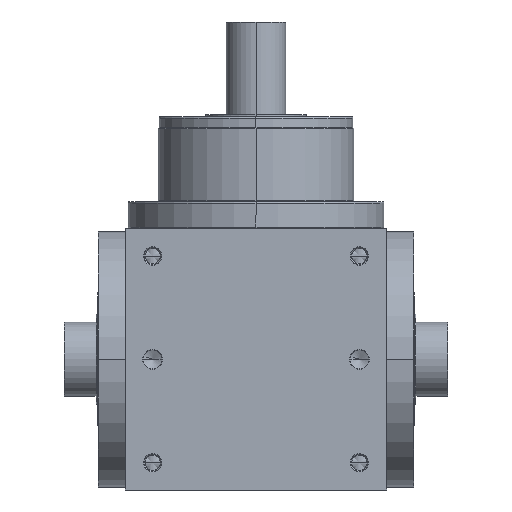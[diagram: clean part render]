
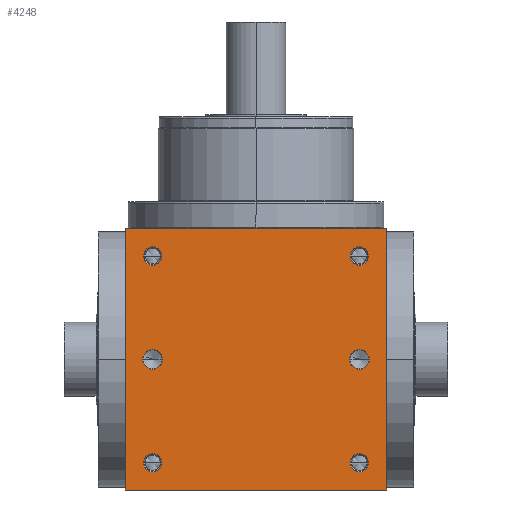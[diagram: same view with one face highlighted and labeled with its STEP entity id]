
A CAD part, front view. The second image highlights one B-rep face of the part: STEP entity #4248.
In plain terms, the highlighted planar face has unit normal (0, -1, 0).
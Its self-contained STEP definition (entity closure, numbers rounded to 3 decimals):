
#5=DIRECTION('',(1.,0.,0.));
#6=VECTOR('',#5,240.);
#7=CARTESIAN_POINT('',(-120.,-120.,-120.));
#8=LINE('',#7,#6);
#155=DIRECTION('',(0.,0.,1.));
#156=VECTOR('',#155,240.);
#157=CARTESIAN_POINT('',(120.,-120.,-120.));
#158=LINE('',#157,#156);
#209=DIRECTION('',(0.,0.,1.));
#210=VECTOR('',#209,240.);
#211=CARTESIAN_POINT('',(-120.,-120.,-120.));
#212=LINE('',#211,#210);
#213=CARTESIAN_POINT('',(95.,-120.,95.));
#214=DIRECTION('',(0.,1.,0.));
#215=DIRECTION('',(-1.,0.,0.));
#216=AXIS2_PLACEMENT_3D('',#213,#214,#215);
#218=CARTESIAN_POINT('',(95.,-120.,95.));
#219=DIRECTION('',(0.,1.,0.));
#220=DIRECTION('',(1.,0.,0.));
#221=AXIS2_PLACEMENT_3D('',#218,#219,#220);
#223=CARTESIAN_POINT('',(-95.,-120.,95.));
#224=DIRECTION('',(0.,1.,0.));
#225=DIRECTION('',(-1.,0.,0.));
#226=AXIS2_PLACEMENT_3D('',#223,#224,#225);
#228=CARTESIAN_POINT('',(-95.,-120.,95.));
#229=DIRECTION('',(0.,1.,0.));
#230=DIRECTION('',(1.,0.,0.));
#231=AXIS2_PLACEMENT_3D('',#228,#229,#230);
#233=CARTESIAN_POINT('',(95.,-120.,-95.));
#234=DIRECTION('',(0.,1.,0.));
#235=DIRECTION('',(-1.,0.,0.));
#236=AXIS2_PLACEMENT_3D('',#233,#234,#235);
#238=CARTESIAN_POINT('',(95.,-120.,-95.));
#239=DIRECTION('',(0.,1.,0.));
#240=DIRECTION('',(1.,0.,0.));
#241=AXIS2_PLACEMENT_3D('',#238,#239,#240);
#243=CARTESIAN_POINT('',(-95.,-120.,-95.));
#244=DIRECTION('',(0.,1.,0.));
#245=DIRECTION('',(-1.,0.,0.));
#246=AXIS2_PLACEMENT_3D('',#243,#244,#245);
#248=CARTESIAN_POINT('',(-95.,-120.,-95.));
#249=DIRECTION('',(0.,1.,0.));
#250=DIRECTION('',(1.,0.,0.));
#251=AXIS2_PLACEMENT_3D('',#248,#249,#250);
#253=CARTESIAN_POINT('',(-95.,-120.,0.));
#254=DIRECTION('',(0.,1.,0.));
#255=DIRECTION('',(1.,0.,0.));
#256=AXIS2_PLACEMENT_3D('',#253,#254,#255);
#258=CARTESIAN_POINT('',(-95.,-120.,0.));
#259=DIRECTION('',(0.,1.,0.));
#260=DIRECTION('',(-1.,0.,0.));
#261=AXIS2_PLACEMENT_3D('',#258,#259,#260);
#263=CARTESIAN_POINT('',(95.,-120.,0.));
#264=DIRECTION('',(0.,1.,0.));
#265=DIRECTION('',(1.,0.,0.));
#266=AXIS2_PLACEMENT_3D('',#263,#264,#265);
#268=CARTESIAN_POINT('',(95.,-120.,0.));
#269=DIRECTION('',(0.,1.,0.));
#270=DIRECTION('',(-1.,0.,0.));
#271=AXIS2_PLACEMENT_3D('',#268,#269,#270);
#285=DIRECTION('',(1.,0.,0.));
#286=VECTOR('',#285,240.);
#287=CARTESIAN_POINT('',(-120.,-120.,120.));
#288=LINE('',#287,#286);
#3422=CARTESIAN_POINT('',(-120.,-120.,-120.));
#3424=VERTEX_POINT('',#3422);
#3425=CARTESIAN_POINT('',(120.,-120.,-120.));
#3426=VERTEX_POINT('',#3425);
#3430=CARTESIAN_POINT('',(-120.,-120.,120.));
#3432=VERTEX_POINT('',#3430);
#3433=CARTESIAN_POINT('',(120.,-120.,120.));
#3434=VERTEX_POINT('',#3433);
#3589=CARTESIAN_POINT('',(86.6,-120.,95.));
#3590=CARTESIAN_POINT('',(103.4,-120.,95.));
#3591=VERTEX_POINT('',#3589);
#3592=VERTEX_POINT('',#3590);
#3597=CARTESIAN_POINT('',(-103.4,-120.,95.));
#3598=CARTESIAN_POINT('',(-86.6,-120.,95.));
#3599=VERTEX_POINT('',#3597);
#3600=VERTEX_POINT('',#3598);
#3605=CARTESIAN_POINT('',(86.6,-120.,-95.));
#3606=CARTESIAN_POINT('',(103.4,-120.,-95.));
#3607=VERTEX_POINT('',#3605);
#3608=VERTEX_POINT('',#3606);
#3613=CARTESIAN_POINT('',(-103.4,-120.,-95.));
#3614=CARTESIAN_POINT('',(-86.6,-120.,-95.));
#3615=VERTEX_POINT('',#3613);
#3616=VERTEX_POINT('',#3614);
#3937=CARTESIAN_POINT('',(-85.95,-120.,
0.));
#3938=CARTESIAN_POINT('',(-104.05,-120.,
0.));
#3939=VERTEX_POINT('',#3937);
#3940=VERTEX_POINT('',#3938);
#3945=CARTESIAN_POINT('',(104.05,-120.,0.));
#3946=CARTESIAN_POINT('',(85.95,-120.,0.));
#3947=VERTEX_POINT('',#3945);
#3948=VERTEX_POINT('',#3946);
#4200=CARTESIAN_POINT('',(-120.,-120.,-120.));
#4201=DIRECTION('',(0.,-1.,0.));
#4202=DIRECTION('',(1.,0.,0.));
#4203=AXIS2_PLACEMENT_3D('',#4200,#4201,#4202);
#4204=PLANE('',#4203);
#4205=ORIENTED_EDGE('',*,*,#4040,.F.);
#4206=ORIENTED_EDGE('',*,*,#4083,.T.);
#4208=ORIENTED_EDGE('',*,*,#4207,.T.);
#4209=ORIENTED_EDGE('',*,*,#4162,.F.);
#4210=EDGE_LOOP('',(#4205,#4206,#4208,#4209));
#4211=FACE_OUTER_BOUND('',#4210,.F.);
#4213=ORIENTED_EDGE('',*,*,#4212,.F.);
#4215=ORIENTED_EDGE('',*,*,#4214,.F.);
#4216=EDGE_LOOP('',(#4213,#4215));
#4217=FACE_BOUND('',#4216,.F.);
#4219=ORIENTED_EDGE('',*,*,#4218,.F.);
#4221=ORIENTED_EDGE('',*,*,#4220,.F.);
#4222=EDGE_LOOP('',(#4219,#4221));
#4223=FACE_BOUND('',#4222,.F.);
#4225=ORIENTED_EDGE('',*,*,#4224,.F.);
#4227=ORIENTED_EDGE('',*,*,#4226,.F.);
#4228=EDGE_LOOP('',(#4225,#4227));
#4229=FACE_BOUND('',#4228,.F.);
#4231=ORIENTED_EDGE('',*,*,#4230,.F.);
#4233=ORIENTED_EDGE('',*,*,#4232,.F.);
#4234=EDGE_LOOP('',(#4231,#4233));
#4235=FACE_BOUND('',#4234,.F.);
#4237=ORIENTED_EDGE('',*,*,#4236,.F.);
#4239=ORIENTED_EDGE('',*,*,#4238,.F.);
#4240=EDGE_LOOP('',(#4237,#4239));
#4241=FACE_BOUND('',#4240,.F.);
#4243=ORIENTED_EDGE('',*,*,#4242,.F.);
#4245=ORIENTED_EDGE('',*,*,#4244,.F.);
#4246=EDGE_LOOP('',(#4243,#4245));
#4247=FACE_BOUND('',#4246,.F.);
#4248=ADVANCED_FACE('',(#4211,#4217,#4223,#4229,#4235,#4241,#4247),#4204,.T.);
#217=CIRCLE('',#216,8.4);
#222=CIRCLE('',#221,8.4);
#227=CIRCLE('',#226,8.4);
#232=CIRCLE('',#231,8.4);
#237=CIRCLE('',#236,8.4);
#242=CIRCLE('',#241,8.4);
#247=CIRCLE('',#246,8.4);
#252=CIRCLE('',#251,8.4);
#257=CIRCLE('',#256,9.05);
#262=CIRCLE('',#261,9.05);
#267=CIRCLE('',#266,9.05);
#272=CIRCLE('',#271,9.05);
#4040=EDGE_CURVE('',#3424,#3426,#8,.T.);
#4083=EDGE_CURVE('',#3424,#3432,#212,.T.);
#4162=EDGE_CURVE('',#3426,#3434,#158,.T.);
#4207=EDGE_CURVE('',#3432,#3434,#288,.T.);
#4212=EDGE_CURVE('',#3591,#3592,#217,.T.);
#4214=EDGE_CURVE('',#3592,#3591,#222,.T.);
#4218=EDGE_CURVE('',#3599,#3600,#227,.T.);
#4220=EDGE_CURVE('',#3600,#3599,#232,.T.);
#4224=EDGE_CURVE('',#3607,#3608,#237,.T.);
#4226=EDGE_CURVE('',#3608,#3607,#242,.T.);
#4230=EDGE_CURVE('',#3615,#3616,#247,.T.);
#4232=EDGE_CURVE('',#3616,#3615,#252,.T.);
#4236=EDGE_CURVE('',#3939,#3940,#257,.T.);
#4238=EDGE_CURVE('',#3940,#3939,#262,.T.);
#4242=EDGE_CURVE('',#3947,#3948,#267,.T.);
#4244=EDGE_CURVE('',#3948,#3947,#272,.T.);
